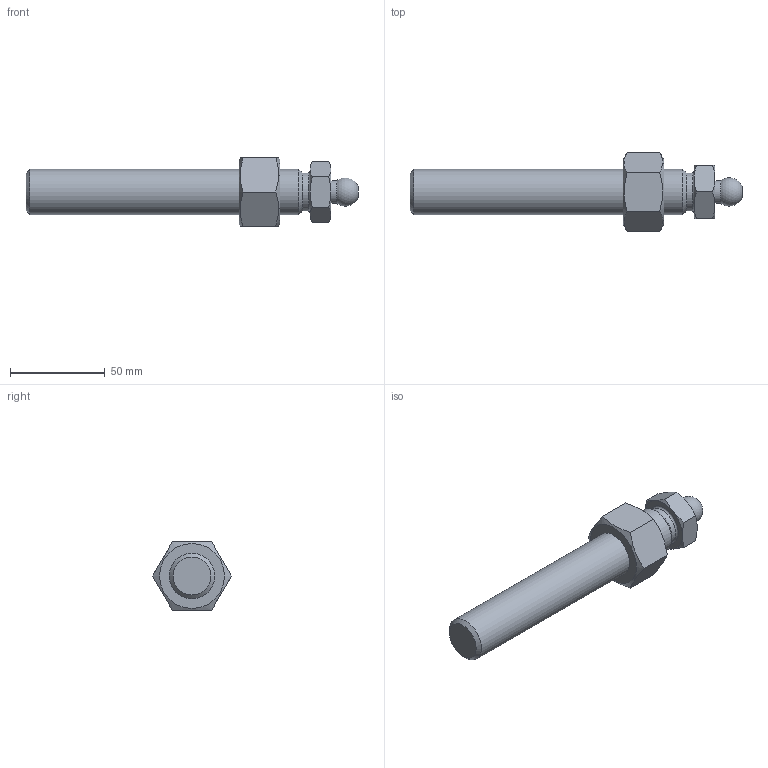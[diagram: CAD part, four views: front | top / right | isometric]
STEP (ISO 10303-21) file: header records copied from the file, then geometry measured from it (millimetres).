
FILE_DESCRIPTION(('STEP AP203'), '1');
FILE_NAME('A00020.124150_1', '', ('UNSPECIFIED'), ('UNSPECIFIED'), 'C3D Converter', 'C3D Toolkit', '');
FILE_SCHEMA(('CONFIG_CONTROL_DESIGN'));
Length unit declared in the file: millimetre
Products named in the file (2): A00020.124150
Assembly tree (1 placements, depth 2):
  A00020.124150
    (unnamed)
Bounding box: 175.3 x 41.57 x 36 mm (x, y, z)
Volume: 92782.8 mm3; surface area: 19577.4 mm2
Topology: 2 solids, 2 shells, 42 faces, 92 edges, 56 vertices
Faces by surface type: plane 18, cone 18, cylinder 4, sphere 1, torus 1
Full cylindrical faces by diameter (mm): 12 x1, 20 x1, 20.752 x1, 24 x1
Entity records: 2574 total; most frequent: CARTESIAN_POINT 1417, DIRECTION 164, ORIENTED_EDGE 160, EDGE_CURVE 80, AXIS2_PLACEMENT_3D 76, EDGE_LOOP 58, VERTEX_POINT 56, ADVANCED_FACE 42
